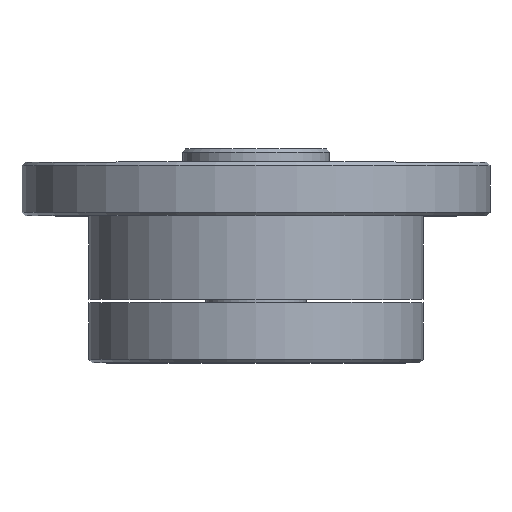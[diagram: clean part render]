
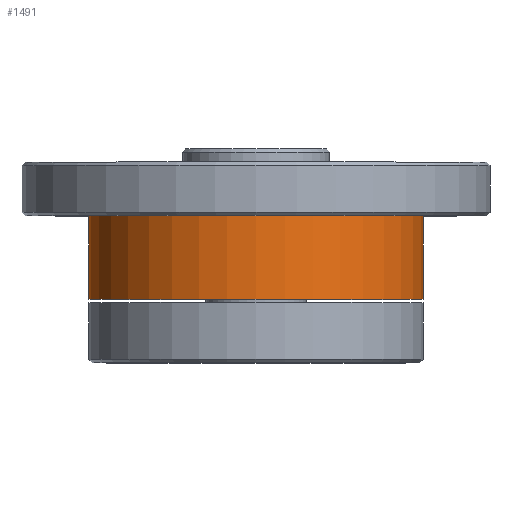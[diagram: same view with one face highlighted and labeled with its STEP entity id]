
A CAD part, top view. The second image highlights one B-rep face of the part: STEP entity #1491.
In plain terms, the highlighted cylindrical face has radius 25 mm (diameter 50 mm), a partial arc.
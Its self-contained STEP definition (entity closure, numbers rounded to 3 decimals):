
#3 = ORIENTED_EDGE ( 'NONE', *, *, #488, .T. ) ;
#11 = CARTESIAN_POINT ( 'NONE',  ( -25., -20.5, 0. ) ) ;
#57 = VECTOR ( 'NONE', #2119, 1000. ) ;
#107 = CARTESIAN_POINT ( 'NONE',  ( 0., -8., 0. ) ) ;
#296 = FACE_OUTER_BOUND ( 'NONE', #847, .T. ) ;
#349 = CIRCLE ( 'NONE', #866, 25. ) ;
#428 = CARTESIAN_POINT ( 'NONE',  ( 25., -20.5, 0. ) ) ;
#439 = CARTESIAN_POINT ( 'NONE',  ( -25., -8., 0. ) ) ;
#488 = EDGE_CURVE ( 'NONE', #1917, #1325, #726, .T. ) ;
#491 = CYLINDRICAL_SURFACE ( 'NONE', #2232, 25. ) ;
#573 = LINE ( 'NONE', #1401, #57 ) ;
#609 = AXIS2_PLACEMENT_3D ( 'NONE', #2230, #894, #1024 ) ;
#726 = LINE ( 'NONE', #2101, #1069 ) ;
#831 = DIRECTION ( 'NONE',  ( 0., -1., 0. ) ) ;
#842 = CARTESIAN_POINT ( 'NONE',  ( 25., -8., 0. ) ) ;
#847 = EDGE_LOOP ( 'NONE', ( #1977, #3, #1681, #1809 ) ) ;
#866 = AXIS2_PLACEMENT_3D ( 'NONE', #107, #831, #2160 ) ;
#874 = EDGE_CURVE ( 'NONE', #2006, #1686, #573, .T. ) ;
#894 = DIRECTION ( 'NONE',  ( 0., -1., 0. ) ) ;
#1018 = CARTESIAN_POINT ( 'NONE',  ( 0., -21.7, 0. ) ) ;
#1024 = DIRECTION ( 'NONE',  ( 1., 0., 0. ) ) ;
#1069 = VECTOR ( 'NONE', #1238, 1000. ) ;
#1212 = CIRCLE ( 'NONE', #609, 25. ) ;
#1238 = DIRECTION ( 'NONE',  ( 0., -1., 0. ) ) ;
#1260 = EDGE_CURVE ( 'NONE', #1686, #1325, #1212, .T. ) ;
#1325 = VERTEX_POINT ( 'NONE', #11 ) ;
#1401 = CARTESIAN_POINT ( 'NONE',  ( 25., -21.7, 0. ) ) ;
#1491 = ADVANCED_FACE ( 'NONE', ( #296 ), #491, .T. ) ;
#1546 = DIRECTION ( 'NONE',  ( 1., 0., 0. ) ) ;
#1681 = ORIENTED_EDGE ( 'NONE', *, *, #1260, .F. ) ;
#1686 = VERTEX_POINT ( 'NONE', #428 ) ;
#1809 = ORIENTED_EDGE ( 'NONE', *, *, #874, .F. ) ;
#1813 = EDGE_CURVE ( 'NONE', #2006, #1917, #349, .T. ) ;
#1917 = VERTEX_POINT ( 'NONE', #439 ) ;
#1977 = ORIENTED_EDGE ( 'NONE', *, *, #1813, .T. ) ;
#2006 = VERTEX_POINT ( 'NONE', #842 ) ;
#2026 = DIRECTION ( 'NONE',  ( 0., -1., 0. ) ) ;
#2101 = CARTESIAN_POINT ( 'NONE',  ( -25., -21.7, 0. ) ) ;
#2119 = DIRECTION ( 'NONE',  ( 0., -1., 0. ) ) ;
#2160 = DIRECTION ( 'NONE',  ( 1., 0., 0. ) ) ;
#2230 = CARTESIAN_POINT ( 'NONE',  ( 0., -20.5, 0. ) ) ;
#2232 = AXIS2_PLACEMENT_3D ( 'NONE', #1018, #2026, #1546 ) ;
